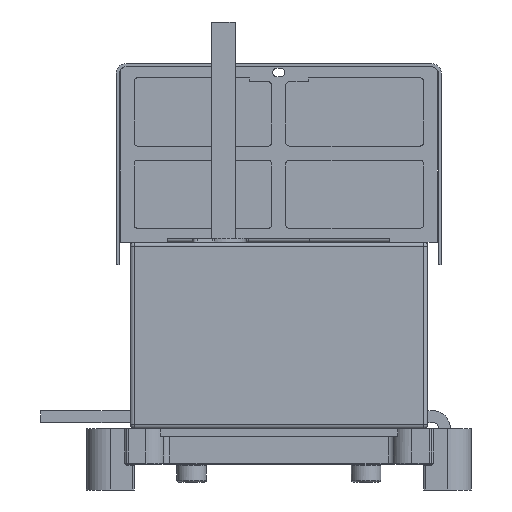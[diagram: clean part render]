
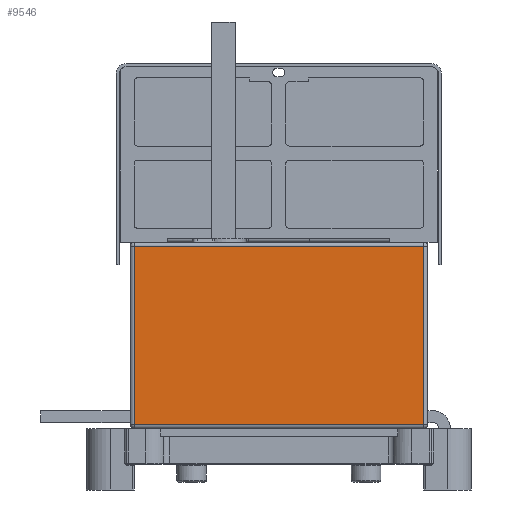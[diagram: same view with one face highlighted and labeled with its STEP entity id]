
A CAD part, left-side view. The second image highlights one B-rep face of the part: STEP entity #9546.
In plain terms, the highlighted planar face has unit normal (-1, 0, 0).
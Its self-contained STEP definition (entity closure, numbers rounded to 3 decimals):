
#2904=LINE('',#50461,#5672);
#2909=LINE('',#50482,#5677);
#2912=LINE('',#50505,#5680);
#2919=LINE('',#50515,#5687);
#5672=VECTOR('',#38913,1.);
#5677=VECTOR('',#38938,1.);
#5680=VECTOR('',#38967,1.);
#5687=VECTOR('',#38980,1.);
#6622=PLANE('',#31153);
#8004=FACE_OUTER_BOUND('',#12367,.T.);
#9546=ADVANCED_FACE('',(#8004),#6622,.F.);
#12367=EDGE_LOOP('',(#19766,#19767,#19768,#19769));
#19766=ORIENTED_EDGE('',*,*,#27259,.T.);
#19767=ORIENTED_EDGE('',*,*,#27241,.T.);
#19768=ORIENTED_EDGE('',*,*,#27252,.T.);
#19769=ORIENTED_EDGE('',*,*,#27230,.T.);
#23295=VERTEX_POINT('',#50447);
#23299=VERTEX_POINT('',#50458);
#23304=VERTEX_POINT('',#50475);
#23305=VERTEX_POINT('',#50479);
#27230=EDGE_CURVE('',#23299,#23295,#2904,.T.);
#27241=EDGE_CURVE('',#23305,#23304,#2909,.T.);
#27252=EDGE_CURVE('',#23304,#23299,#2912,.T.);
#27259=EDGE_CURVE('',#23295,#23305,#2919,.T.);
#31153=AXIS2_PLACEMENT_3D('',#50568,#39025,#39026);
#38913=DIRECTION('',(0.,1.,0.));
#38938=DIRECTION('',(0.,-1.,0.));
#38967=DIRECTION('',(0.,0.,1.));
#38980=DIRECTION('',(0.,0.,-1.));
#39025=DIRECTION('',(1.,0.,0.));
#39026=DIRECTION('',(0.,1.,0.));
#50447=CARTESIAN_POINT('',(-150.,73.,92.));
#50458=CARTESIAN_POINT('',(-150.,-73.,92.));
#50461=CARTESIAN_POINT('',(-150.,73.,92.));
#50475=CARTESIAN_POINT('',(-150.,-73.,2.));
#50479=CARTESIAN_POINT('',(-150.,73.,2.));
#50482=CARTESIAN_POINT('',(-150.,75.,2.));
#50505=CARTESIAN_POINT('',(-150.,-73.,94.));
#50515=CARTESIAN_POINT('',(-150.,73.,94.));
#50568=CARTESIAN_POINT('',(-150.,75.,94.));
